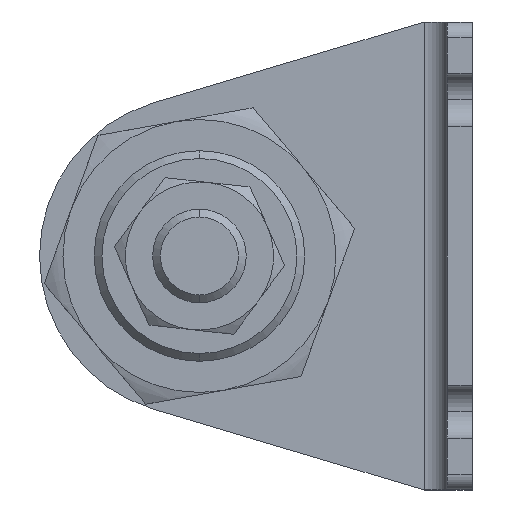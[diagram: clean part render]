
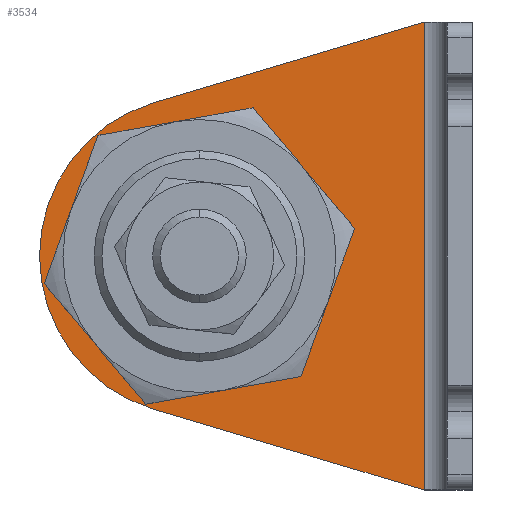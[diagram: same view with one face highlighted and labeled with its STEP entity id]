
A CAD part, left-side view. The second image highlights one B-rep face of the part: STEP entity #3534.
In plain terms, the highlighted planar face has unit normal (-1, 0, 0) as drawn and (1, 0, 0) by its records, which use the part's own axes.
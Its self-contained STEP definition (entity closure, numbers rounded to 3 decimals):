
#49 = CARTESIAN_POINT ( 'NONE',  ( 3.2, 35., -30. ) ) ;
#86 = VERTEX_POINT ( 'NONE', #1518 ) ;
#265 = VECTOR ( 'NONE', #3418, 1000. ) ;
#286 = DIRECTION ( 'NONE',  ( 1., 0., 0. ) ) ;
#429 = CIRCLE ( 'NONE', #5218, 13.5 ) ;
#478 = CARTESIAN_POINT ( 'NONE',  ( 3.2, 21.5, -30. ) ) ;
#489 = VECTOR ( 'NONE', #2258, 1000. ) ;
#665 = EDGE_CURVE ( 'NONE', #4678, #1353, #4796, .T. ) ;
#707 = EDGE_CURVE ( 'NONE', #5717, #86, #1627, .T. ) ;
#799 = VECTOR ( 'NONE', #4851, 1000. ) ;
#830 = AXIS2_PLACEMENT_3D ( 'NONE', #5205, #286, #5589 ) ;
#870 = PLANE ( 'NONE',  #830 ) ;
#1176 = AXIS2_PLACEMENT_3D ( 'NONE', #3261, #4415, #1936 ) ;
#1186 = DIRECTION ( 'NONE',  ( 1., 0., 0. ) ) ;
#1353 = VERTEX_POINT ( 'NONE', #2553 ) ;
#1518 = CARTESIAN_POINT ( 'NONE',  ( 3.2, 40.868, -10.358 ) ) ;
#1547 = DIRECTION ( 'NONE',  ( 0., 1., 0. ) ) ;
#1627 = LINE ( 'NONE', #2428, #799 ) ;
#1662 = EDGE_CURVE ( 'NONE', #1827, #3279, #2200, .T. ) ;
#1681 = ORIENTED_EDGE ( 'NONE', *, *, #2110, .T. ) ;
#1827 = VERTEX_POINT ( 'NONE', #2385 ) ;
#1881 = FACE_BOUND ( 'NONE', #3519, .T. ) ;
#1936 = DIRECTION ( 'NONE',  ( 0., 1., 0. ) ) ;
#2010 = EDGE_CURVE ( 'NONE', #1353, #4678, #429, .T. ) ;
#2023 = DIRECTION ( 'NONE',  ( 0., 1., 0. ) ) ;
#2110 = EDGE_CURVE ( 'NONE', #5717, #4781, #2613, .T. ) ;
#2200 = CIRCLE ( 'NONE', #1176, 20.5 ) ;
#2224 = ORIENTED_EDGE ( 'NONE', *, *, #1662, .T. ) ;
#2258 = DIRECTION ( 'NONE',  ( 0., 0., -1. ) ) ;
#2385 = CARTESIAN_POINT ( 'NONE',  ( 3.2, 40.868, -49.642 ) ) ;
#2426 = EDGE_CURVE ( 'NONE', #4781, #1827, #4137, .T. ) ;
#2428 = CARTESIAN_POINT ( 'NONE',  ( 3.2, 19.903, -4.094 ) ) ;
#2432 = ORIENTED_EDGE ( 'NONE', *, *, #665, .F. ) ;
#2448 = EDGE_LOOP ( 'NONE', ( #4873, #2224, #5001, #4668, #1681 ) ) ;
#2553 = CARTESIAN_POINT ( 'NONE',  ( 3.2, 48.5, -30. ) ) ;
#2584 = EDGE_CURVE ( 'NONE', #3279, #86, #5268, .T. ) ;
#2613 = LINE ( 'NONE', #4103, #489 ) ;
#3261 = CARTESIAN_POINT ( 'NONE',  ( 3.2, 35., -30. ) ) ;
#3279 = VERTEX_POINT ( 'NONE', #4638 ) ;
#3395 = CARTESIAN_POINT ( 'NONE',  ( 3.2, 35., -30. ) ) ;
#3418 = DIRECTION ( 'NONE',  ( 0., 0.958, 0.286 ) ) ;
#3482 = FACE_OUTER_BOUND ( 'NONE', #2448, .T. ) ;
#3519 = EDGE_LOOP ( 'NONE', ( #3838, #2432 ) ) ;
#3534 = ADVANCED_FACE ( 'NONE', ( #1881, #3482 ), #870, .T. ) ;
#3593 = CARTESIAN_POINT ( 'NONE',  ( 3.2, 35., -30. ) ) ;
#3744 = CARTESIAN_POINT ( 'NONE',  ( 3.2, 6.2, -60. ) ) ;
#3838 = ORIENTED_EDGE ( 'NONE', *, *, #2010, .F. ) ;
#3868 = CARTESIAN_POINT ( 'NONE',  ( 3.2, 3.446, -60.823 ) ) ;
#4103 = CARTESIAN_POINT ( 'NONE',  ( 3.2, 6.2, -60. ) ) ;
#4123 = DIRECTION ( 'NONE',  ( 1., 0., 0. ) ) ;
#4137 = LINE ( 'NONE', #3868, #265 ) ;
#4286 = DIRECTION ( 'NONE',  ( 0., 1., 0. ) ) ;
#4415 = DIRECTION ( 'NONE',  ( 1., 0., 0. ) ) ;
#4422 = CARTESIAN_POINT ( 'NONE',  ( 3.2, 6.2, 0. ) ) ;
#4638 = CARTESIAN_POINT ( 'NONE',  ( 3.2, 55.5, -30. ) ) ;
#4668 = ORIENTED_EDGE ( 'NONE', *, *, #707, .F. ) ;
#4678 = VERTEX_POINT ( 'NONE', #478 ) ;
#4781 = VERTEX_POINT ( 'NONE', #3744 ) ;
#4796 = CIRCLE ( 'NONE', #5221, 13.5 ) ;
#4851 = DIRECTION ( 'NONE',  ( 0., 0.958, -0.286 ) ) ;
#4873 = ORIENTED_EDGE ( 'NONE', *, *, #2426, .T. ) ;
#5001 = ORIENTED_EDGE ( 'NONE', *, *, #2584, .T. ) ;
#5205 = CARTESIAN_POINT ( 'NONE',  ( 3.2, 3.2, -60. ) ) ;
#5218 = AXIS2_PLACEMENT_3D ( 'NONE', #3593, #1186, #2023 ) ;
#5221 = AXIS2_PLACEMENT_3D ( 'NONE', #3395, #5686, #4286 ) ;
#5268 = CIRCLE ( 'NONE', #5535, 20.5 ) ;
#5535 = AXIS2_PLACEMENT_3D ( 'NONE', #49, #4123, #1547 ) ;
#5589 = DIRECTION ( 'NONE',  ( 0., 1., 0. ) ) ;
#5686 = DIRECTION ( 'NONE',  ( 1., 0., 0. ) ) ;
#5717 = VERTEX_POINT ( 'NONE', #4422 ) ;
